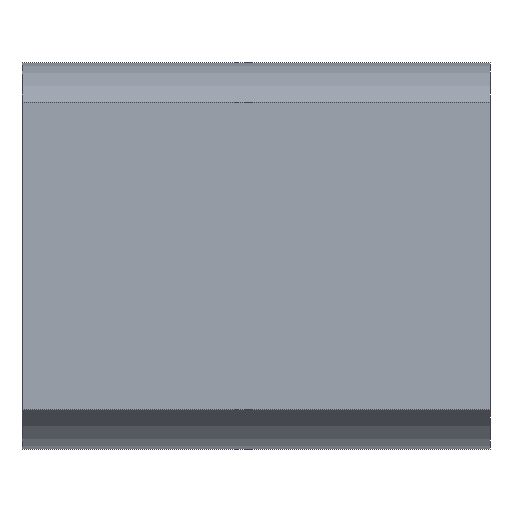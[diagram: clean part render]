
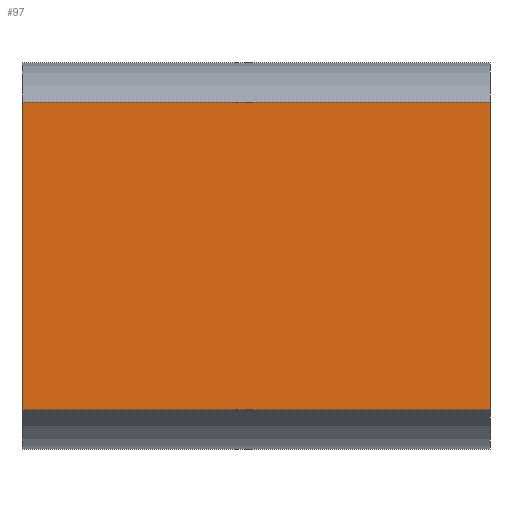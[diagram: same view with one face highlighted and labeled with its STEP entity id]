
A CAD part, front view. The second image highlights one B-rep face of the part: STEP entity #97.
In plain terms, the highlighted planar face has unit normal (0, -1, 0).
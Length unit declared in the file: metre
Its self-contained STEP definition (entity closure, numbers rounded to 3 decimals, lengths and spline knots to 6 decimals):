
#15=LINE('',#162,#23);
#17=LINE('',#168,#25);
#18=LINE('',#170,#26);
#20=LINE('',#176,#28);
#23=VECTOR('',#132,1.);
#25=VECTOR('',#138,1.);
#26=VECTOR('',#141,1.);
#28=VECTOR('',#147,1.);
#42=ORIENTED_EDGE('',*,*,#64,.T.);
#43=ORIENTED_EDGE('',*,*,#61,.F.);
#44=ORIENTED_EDGE('',*,*,#57,.T.);
#45=ORIENTED_EDGE('',*,*,#60,.T.);
#57=EDGE_CURVE('',#67,#69,#15,.T.);
#60=EDGE_CURVE('',#69,#71,#17,.T.);
#61=EDGE_CURVE('',#67,#72,#18,.T.);
#64=EDGE_CURVE('',#71,#72,#20,.T.);
#67=VERTEX_POINT('',#157);
#69=VERTEX_POINT('',#161);
#71=VERTEX_POINT('',#167);
#72=VERTEX_POINT('',#171);
#81=EDGE_LOOP('',(#42,#43,#44,#45));
#87=FACE_BOUND('',#81,.T.);
#91=PLANE('',#120);
#97=ADVANCED_FACE('',(#87),#91,.T.);
#120=AXIS2_PLACEMENT_3D('',#175,#145,#146);
#132=DIRECTION('',(0.,0.,-1.));
#138=DIRECTION('',(1.,0.,0.));
#141=DIRECTION('',(1.,0.,0.));
#145=DIRECTION('',(0.,-1.,0.));
#146=DIRECTION('',(0.,0.,-1.));
#147=DIRECTION('',(0.,0.,1.));
#157=CARTESIAN_POINT('',(-0.008,-0.0015,-0.005831));
#161=CARTESIAN_POINT('',(-0.008,-0.0015,-0.009769));
#162=CARTESIAN_POINT('',(-0.008,-0.0015,-0.0078));
#167=CARTESIAN_POINT('',(-0.002,-0.0015,-0.009769));
#168=CARTESIAN_POINT('',(-0.008,-0.0015,-0.009769));
#170=CARTESIAN_POINT('',(-0.008,-0.0015,-0.005831));
#171=CARTESIAN_POINT('',(-0.002,-0.0015,-0.005831));
#175=CARTESIAN_POINT('',(-0.008,-0.0015,-0.0078));
#176=CARTESIAN_POINT('',(-0.002,-0.0015,-0.0078));
